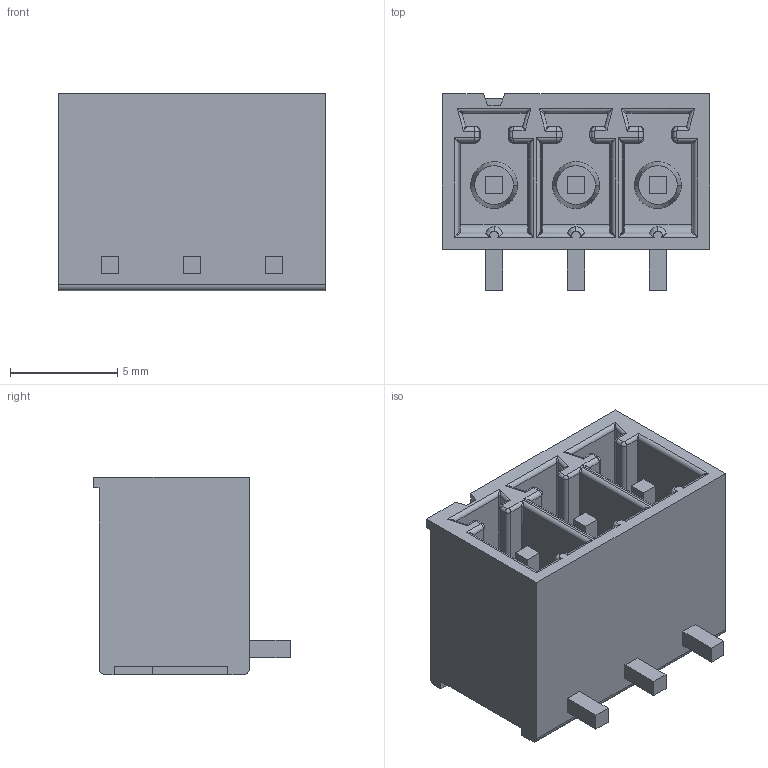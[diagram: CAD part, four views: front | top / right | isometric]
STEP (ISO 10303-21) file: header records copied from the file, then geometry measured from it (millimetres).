
FILE_DESCRIPTION((''),'2;1');
FILE_NAME('C-2342077-3','2019-07-24T03:14:19',('workeradm'),('TE Connectivity Ltd.'),'CREO PARAMETRIC BY PTC INC, 2019030','CREO PARAMETRIC BY PTC INC, 2019030','');
FILE_SCHEMA(('AUTOMOTIVE_DESIGN { 1 0 10303 214 1 1 1 1 }'));
Length unit declared in the file: millimetre
Products named in the file (1): C-2342077-3
Bounding box: 12.43 x 9.15 x 9.2 mm (x, y, z)
Volume: 485.5 mm3; surface area: 1019.6 mm2
Topology: 1 solids, 1 shells, 277 faces, 651 edges, 373 vertices
Faces by surface type: plane 101, cylinder 101, bspline 45, sphere 12, torus 12, cone 6
Entity records: 10358 total; most frequent: CARTESIAN_POINT 4115, ORIENTED_EDGE 1272, DIRECTION 1140, EDGE_CURVE 636, AXIS2_PLACEMENT_3D 386, VERTEX_POINT 373, VECTOR 368, LINE 368
